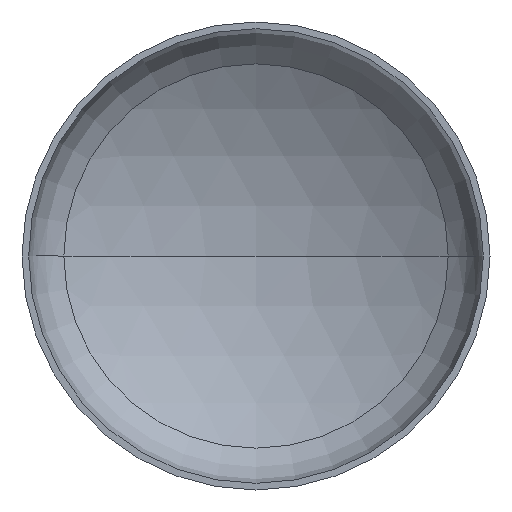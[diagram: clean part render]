
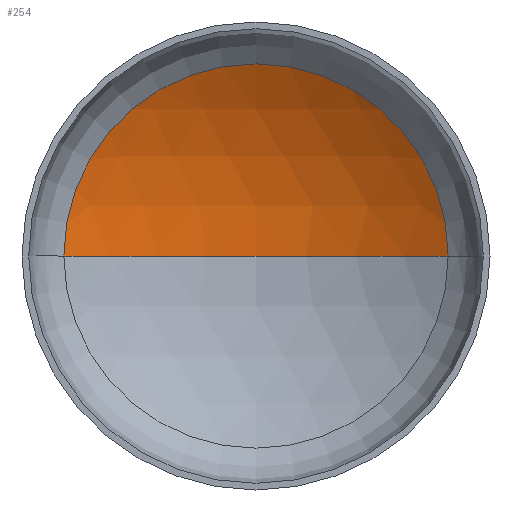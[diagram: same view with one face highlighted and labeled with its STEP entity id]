
A CAD part, front view. The second image highlights one B-rep face of the part: STEP entity #254.
In plain terms, the highlighted spherical face has radius 4800 mm.
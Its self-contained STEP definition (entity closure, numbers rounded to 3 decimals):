
#10 = DIRECTION ( 'NONE',  ( -1., 0., 0. ) ) ;
#11 = DIRECTION ( 'NONE',  ( 1., 0., 0. ) ) ;
#21 = VERTEX_POINT ( 'NONE', #227 ) ;
#40 = DIRECTION ( 'NONE',  ( 0., 0., 1. ) ) ;
#49 = ORIENTED_EDGE ( 'NONE', *, *, #245, .T. ) ;
#54 = ORIENTED_EDGE ( 'NONE', *, *, #150, .T. ) ;
#91 = AXIS2_PLACEMENT_3D ( 'NONE', #359, #40, #209 ) ;
#103 = EDGE_LOOP ( 'NONE', ( #105, #54, #49 ) ) ;
#105 = ORIENTED_EDGE ( 'NONE', *, *, #397, .F. ) ;
#114 = VERTEX_POINT ( 'NONE', #176 ) ;
#119 = VERTEX_POINT ( 'NONE', #348 ) ;
#140 = DIRECTION ( 'NONE',  ( 0., -1., 0. ) ) ;
#142 = CIRCLE ( 'NONE', #241, 2463.794 ) ;
#146 = CARTESIAN_POINT ( 'NONE',  ( 0., 893.849, 0. ) ) ;
#150 = EDGE_CURVE ( 'NONE', #21, #119, #240, .T. ) ;
#174 = CIRCLE ( 'NONE', #91, 4800. ) ;
#176 = CARTESIAN_POINT ( 'NONE',  ( -2463.794, 893.849, 0. ) ) ;
#191 = DIRECTION ( 'NONE',  ( -1., 0., 0. ) ) ;
#196 = CARTESIAN_POINT ( 'NONE',  ( 0., -3225.583, 0. ) ) ;
#198 = DIRECTION ( 'NONE',  ( 0., 0., -1. ) ) ;
#209 = DIRECTION ( 'NONE',  ( 1., 0., 0. ) ) ;
#219 = CARTESIAN_POINT ( 'NONE',  ( 0., -3225.583, 0. ) ) ;
#227 = CARTESIAN_POINT ( 'NONE',  ( 0., 1574.417, 0. ) ) ;
#240 = CIRCLE ( 'NONE', #406, 4800. ) ;
#241 = AXIS2_PLACEMENT_3D ( 'NONE', #146, #140, #11 ) ;
#245 = EDGE_CURVE ( 'NONE', #119, #114, #142, .T. ) ;
#247 = DIRECTION ( 'NONE',  ( 0., 0., -1. ) ) ;
#254 = ADVANCED_FACE ( 'NONE', ( #411 ), #407, .F. ) ;
#291 = AXIS2_PLACEMENT_3D ( 'NONE', #219, #247, #10 ) ;
#348 = CARTESIAN_POINT ( 'NONE',  ( 2463.794, 893.849, 0. ) ) ;
#359 = CARTESIAN_POINT ( 'NONE',  ( 0., -3225.583, 0. ) ) ;
#397 = EDGE_CURVE ( 'NONE', #21, #114, #174, .T. ) ;
#406 = AXIS2_PLACEMENT_3D ( 'NONE', #196, #198, #191 ) ;
#407 = SPHERICAL_SURFACE ( 'NONE', #291, 4800. ) ;
#411 = FACE_OUTER_BOUND ( 'NONE', #103, .T. ) ;
